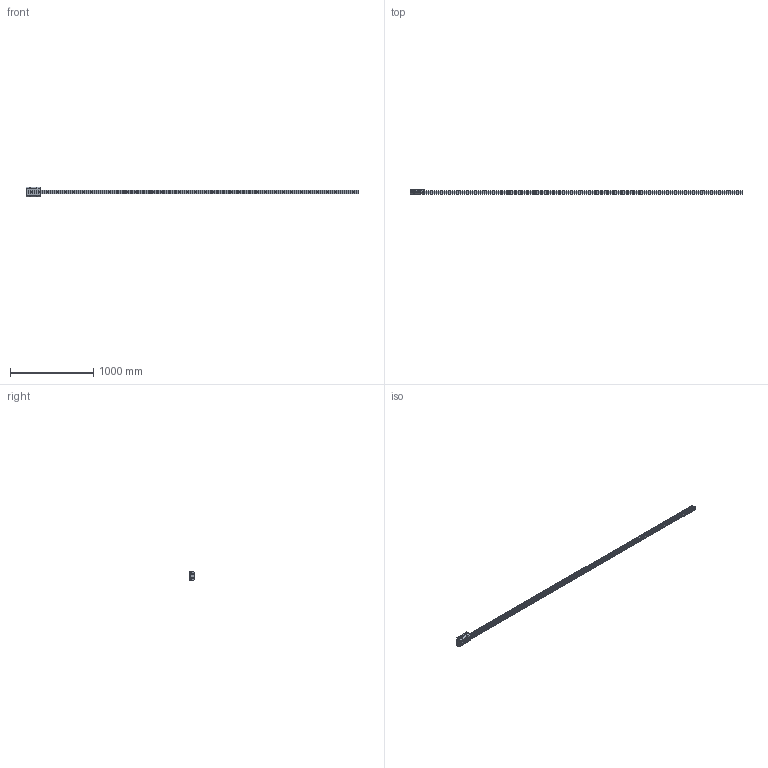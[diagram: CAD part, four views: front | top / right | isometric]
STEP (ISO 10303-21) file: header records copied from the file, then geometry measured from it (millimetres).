
FILE_DESCRIPTION( ( 'STEP AP203' ), '1' );
FILE_NAME( 'p:/temp/worker_8/temp/exporttempdir_140_660_1xHBK/format_0/FDA45 84365A_4000-0.stp', '2021-02-04T01:47:25', ( 'License CC BY-ND 4.0' ), ( 'CADENAS' ), ' ', 'PARTsolutions', ' ' );
FILE_SCHEMA( ( 'CONFIG_CONTROL_DESIGN' ) );
Length unit declared in the file: millimetre
Products named in the file (3): FDA45 84365A_4000-0; _FD_45K-4000-0; _FD_45K Rollenhalter
Assembly tree (2 placements, depth 2):
  FDA45 84365A_4000-0
    _FD_45K-4000-0
    _FD_45K Rollenhalter
Bounding box: 4000 x 60 x 120 mm (x, y, z)
Volume: 6895495.8 mm3; surface area: 1015742.1 mm2
Topology: 2 solids, 2 shells, 615 faces, 1649 edges, 1109 vertices
Faces by surface type: plane 362, cylinder 242, torus 8, cone 3
Full cylindrical faces by diameter (mm): 4.2 x1, 10.106 x4, 11 x38, 13 x8, 14 x4, 15 x8, 18 x38
Entity records: 18663 total; most frequent: CARTESIAN_POINT 3232, DIRECTION 3209, ORIENTED_EDGE 2982, EDGE_CURVE 1491, AXIS2_PLACEMENT_3D 1111, VERTEX_POINT 1060, LINE 987, VECTOR 987
